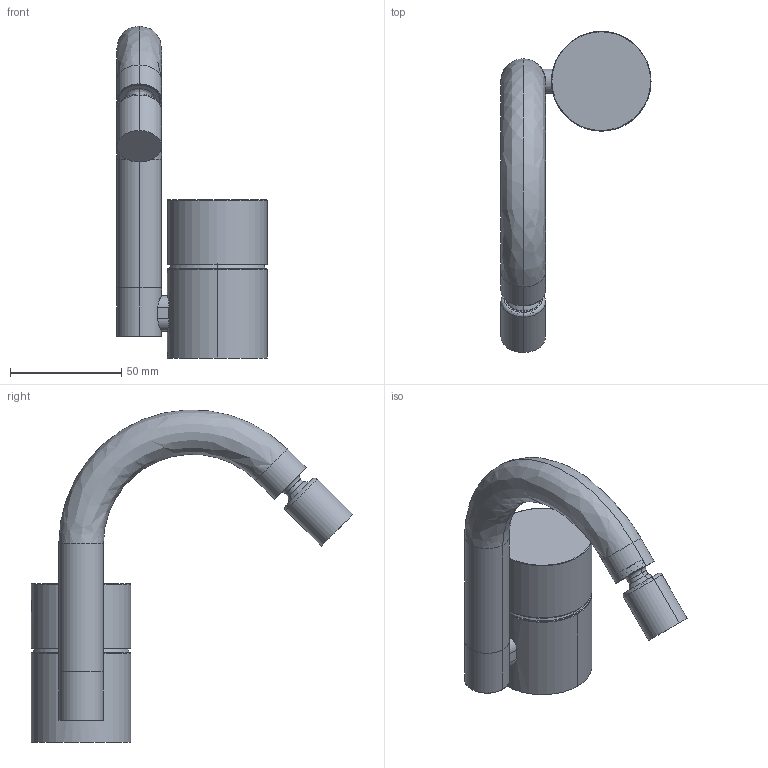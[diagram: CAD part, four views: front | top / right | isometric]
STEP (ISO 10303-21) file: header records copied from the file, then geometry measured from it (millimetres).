
FILE_DESCRIPTION(('STEP AP203'),'2;1');
FILE_NAME('DIS_3D_Y008WU.stp','2022-01-19T12:27:48',(''),(''),'2015.2.119','THINKDESIGN','');
FILE_SCHEMA(('CONFIG_CONTROL_DESIGN'));
Length unit declared in the file: inch
Bounding box: 67.35 x 144.17 x 148.91 mm (x, y, z)
Volume: 136189.5 mm3; surface area: 49924.9 mm2
Topology: 6 solids, 6 shells, 213 faces, 702 edges, 616 vertices
Faces by surface type: cylinder 73, bspline 72, plane 68
Full cylindrical faces by diameter (mm): 10.435 x1, 10.903 x1
Entity records: 9663 total; most frequent: CARTESIAN_POINT 5181, DIRECTION 910, ORIENTED_EDGE 488, COMPOSITE_CURVE_SEGMENT 452, AXIS2_PLACEMENT_3D 337, EDGE_CURVE 244, VECTOR 236, LINE 236
